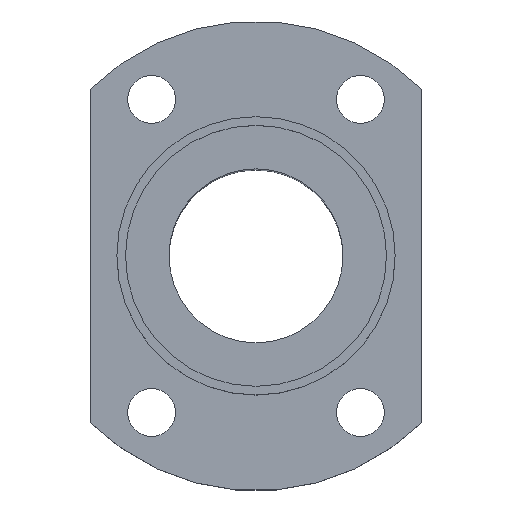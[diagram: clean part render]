
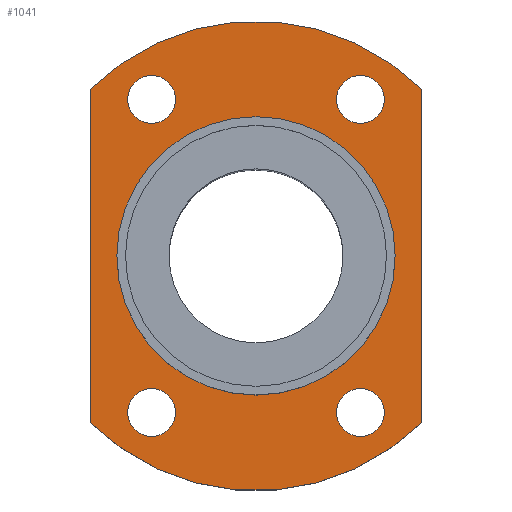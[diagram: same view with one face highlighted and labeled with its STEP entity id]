
A CAD part, top view. The second image highlights one B-rep face of the part: STEP entity #1041.
In plain terms, the highlighted planar face has unit normal (0, 0, 1).
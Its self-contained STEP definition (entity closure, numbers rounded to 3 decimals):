
#219=CARTESIAN_POINT('',(-16.0,0.,-8.));
#220=VERTEX_POINT('',#219);
#236=CARTESIAN_POINT('',(16.0,0.,-8.0));
#237=VERTEX_POINT('',#236);
#244=CARTESIAN_POINT('',(0.0,0.0,-8.));
#245=DIRECTION('',(0.0,0.0,1.0));
#246=DIRECTION('',(-1.0,0.0,0.0));
#247=AXIS2_PLACEMENT_3D('',#244,#245,#246);
#248=CIRCLE('',#247,16.0);
#249=EDGE_CURVE('',#237,#220,#248,.T.);
#259=CARTESIAN_POINT('',(-9.25,-18.0,-8.));
#260=VERTEX_POINT('',#259);
#269=CARTESIAN_POINT('',(-14.75,-18.0,-8.));
#270=VERTEX_POINT('',#269);
#271=CARTESIAN_POINT('',(-12.,-18.0,-8.));
#272=DIRECTION('',(0.0,0.0,-1.0));
#273=DIRECTION('',(1.0,0.0,0.0));
#274=AXIS2_PLACEMENT_3D('',#271,#272,#273);
#275=CIRCLE('',#274,2.75);
#276=EDGE_CURVE('',#270,#260,#275,.T.);
#343=CARTESIAN_POINT('',(14.75,18.0,-8.));
#344=VERTEX_POINT('',#343);
#353=CARTESIAN_POINT('',(9.25,18.0,-8.));
#354=VERTEX_POINT('',#353);
#355=CARTESIAN_POINT('',(12.,18.0,-8.));
#356=DIRECTION('',(0.0,0.0,-1.0));
#357=DIRECTION('',(1.0,0.0,0.0));
#358=AXIS2_PLACEMENT_3D('',#355,#356,#357);
#359=CIRCLE('',#358,2.75);
#360=EDGE_CURVE('',#354,#344,#359,.T.);
#427=CARTESIAN_POINT('',(-9.25,18.,-8.));
#428=VERTEX_POINT('',#427);
#437=CARTESIAN_POINT('',(-14.75,18.,-8.));
#438=VERTEX_POINT('',#437);
#439=CARTESIAN_POINT('',(-12.,18.,-8.));
#440=DIRECTION('',(0.0,0.0,-1.0));
#441=DIRECTION('',(1.0,0.0,0.0));
#442=AXIS2_PLACEMENT_3D('',#439,#440,#441);
#443=CIRCLE('',#442,2.75);
#444=EDGE_CURVE('',#438,#428,#443,.T.);
#511=CARTESIAN_POINT('',(14.75,-18.,-8.));
#512=VERTEX_POINT('',#511);
#521=CARTESIAN_POINT('',(9.25,-18.,-8.));
#522=VERTEX_POINT('',#521);
#523=CARTESIAN_POINT('',(12.,-18.,-8.));
#524=DIRECTION('',(0.0,0.0,-1.0));
#525=DIRECTION('',(1.0,0.0,0.0));
#526=AXIS2_PLACEMENT_3D('',#523,#524,#525);
#527=CIRCLE('',#526,2.75);
#528=EDGE_CURVE('',#522,#512,#527,.T.);
#642=CARTESIAN_POINT('',(12.,-18.,-8.));
#643=DIRECTION('',(0.0,0.0,-1.0));
#644=DIRECTION('',(1.0,0.0,0.0));
#645=AXIS2_PLACEMENT_3D('',#642,#643,#644);
#646=CIRCLE('',#645,2.75);
#647=EDGE_CURVE('',#512,#522,#646,.T.);
#704=CARTESIAN_POINT('',(-12.,18.,-8.));
#705=DIRECTION('',(0.0,0.0,-1.0));
#706=DIRECTION('',(1.0,0.0,0.0));
#707=AXIS2_PLACEMENT_3D('',#704,#705,#706);
#708=CIRCLE('',#707,2.75);
#709=EDGE_CURVE('',#428,#438,#708,.T.);
#766=CARTESIAN_POINT('',(12.,18.0,-8.));
#767=DIRECTION('',(0.0,0.0,-1.0));
#768=DIRECTION('',(1.0,0.0,0.0));
#769=AXIS2_PLACEMENT_3D('',#766,#767,#768);
#770=CIRCLE('',#769,2.75);
#771=EDGE_CURVE('',#344,#354,#770,.T.);
#828=CARTESIAN_POINT('',(-12.,-18.0,-8.));
#829=DIRECTION('',(0.0,0.0,-1.0));
#830=DIRECTION('',(1.0,0.0,0.0));
#831=AXIS2_PLACEMENT_3D('',#828,#829,#830);
#832=CIRCLE('',#831,2.75);
#833=EDGE_CURVE('',#260,#270,#832,.T.);
#854=CARTESIAN_POINT('',(19.,-19.183,-8.0));
#855=VERTEX_POINT('',#854);
#862=CARTESIAN_POINT('',(-19.0,-19.183,-8.0));
#863=VERTEX_POINT('',#862);
#864=CARTESIAN_POINT('',(0.0,0.0,-8.0));
#865=DIRECTION('',(0.0,0.0,1.));
#866=DIRECTION('',(-0.704,-0.71,0.0));
#867=AXIS2_PLACEMENT_3D('',#864,#865,#866);
#868=CIRCLE('',#867,27.0);
#869=EDGE_CURVE('',#863,#855,#868,.T.);
#893=CARTESIAN_POINT('',(19.0,19.183,-8.0));
#894=VERTEX_POINT('',#893);
#901=CARTESIAN_POINT('',(19.,-19.183,-8.0));
#902=DIRECTION('',(0.0,1.0,0.0));
#903=VECTOR('',#902,38.367);
#904=LINE('',#901,#903);
#905=EDGE_CURVE('',#855,#894,#904,.T.);
#925=CARTESIAN_POINT('',(-19.,19.183,-8.0));
#926=VERTEX_POINT('',#925);
#933=CARTESIAN_POINT('',(0.0,0.0,-8.0));
#934=DIRECTION('',(0.0,0.0,1.0));
#935=DIRECTION('',(0.704,0.71,0.0));
#936=AXIS2_PLACEMENT_3D('',#933,#934,#935);
#937=CIRCLE('',#936,27.);
#938=EDGE_CURVE('',#894,#926,#937,.T.);
#956=CARTESIAN_POINT('',(-19.,19.183,-8.0));
#957=DIRECTION('',(0.0,-1.0,0.0));
#958=VECTOR('',#957,38.367);
#959=LINE('',#956,#958);
#960=EDGE_CURVE('',#926,#863,#959,.T.);
#1004=CARTESIAN_POINT('',(0.,0.,-8.));
#1005=DIRECTION('',(0.0,0.0,1.0));
#1006=DIRECTION('',(1.0,0.0,0.0));
#1007=AXIS2_PLACEMENT_3D('',#1004,#1005,#1006);
#1008=PLANE('',#1007);
#1009=ORIENTED_EDGE('',*,*,#960,.T.);
#1010=ORIENTED_EDGE('',*,*,#869,.T.);
#1011=ORIENTED_EDGE('',*,*,#905,.T.);
#1012=ORIENTED_EDGE('',*,*,#938,.T.);
#1013=EDGE_LOOP('',(#1009,#1010,#1011,#1012));
#1014=FACE_OUTER_BOUND('',#1013,.T.);
#1015=ORIENTED_EDGE('',*,*,#528,.T.);
#1016=ORIENTED_EDGE('',*,*,#647,.T.);
#1017=EDGE_LOOP('',(#1015,#1016));
#1018=FACE_BOUND('',#1017,.T.);
#1019=ORIENTED_EDGE('',*,*,#444,.T.);
#1020=ORIENTED_EDGE('',*,*,#709,.T.);
#1021=EDGE_LOOP('',(#1019,#1020));
#1022=FACE_BOUND('',#1021,.T.);
#1023=ORIENTED_EDGE('',*,*,#360,.T.);
#1024=ORIENTED_EDGE('',*,*,#771,.T.);
#1025=EDGE_LOOP('',(#1023,#1024));
#1026=FACE_BOUND('',#1025,.T.);
#1027=ORIENTED_EDGE('',*,*,#276,.T.);
#1028=ORIENTED_EDGE('',*,*,#833,.T.);
#1029=EDGE_LOOP('',(#1027,#1028));
#1030=FACE_BOUND('',#1029,.T.);
#1031=ORIENTED_EDGE('',*,*,#249,.F.);
#1032=CARTESIAN_POINT('',(0.0,0.0,-8.));
#1033=DIRECTION('',(0.0,0.0,1.0));
#1034=DIRECTION('',(-1.0,0.0,0.0));
#1035=AXIS2_PLACEMENT_3D('',#1032,#1033,#1034);
#1036=CIRCLE('',#1035,16.0);
#1037=EDGE_CURVE('',#220,#237,#1036,.T.);
#1038=ORIENTED_EDGE('',*,*,#1037,.F.);
#1039=EDGE_LOOP('',(#1031,#1038));
#1040=FACE_BOUND('',#1039,.T.);
#1041=ADVANCED_FACE('',(#1014,#1018,#1022,#1026,#1030,#1040),#1008,.T.);
